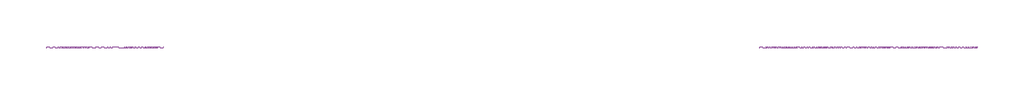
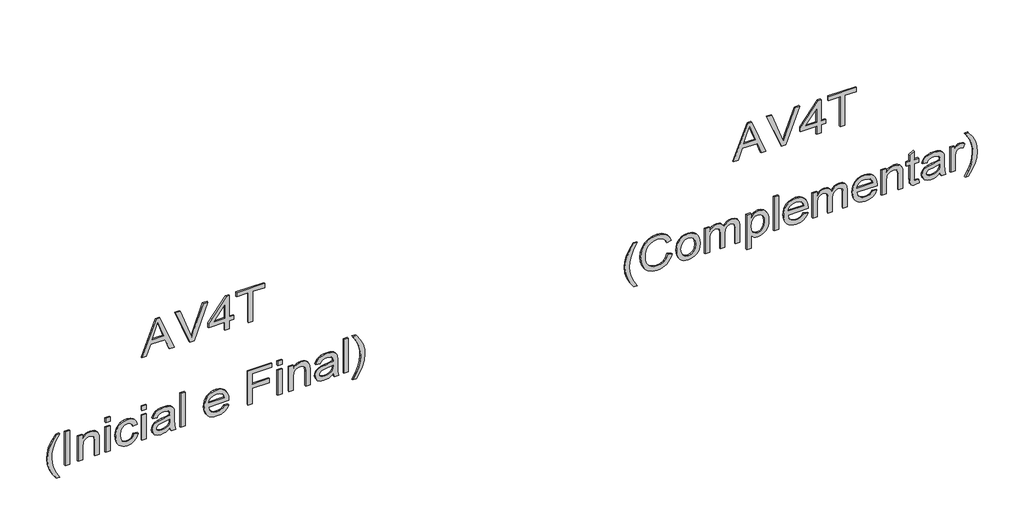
# One storey, part 11 of 14: 2 proxies.
"""IFC4 building model written with IfcOpenShell, lengths in millimetres."""

from ifc_helpers import new_model, si_unit, frame, origin, place, context, project, spatial, polyline, outline, extrude, element, save

model = new_model("IFC4")

# Units and contexts
model_context = context("Model", 3, world=origin())
ifc_project = project(units=[si_unit("LENGTHUNIT", "METRE", prefix="MILLI")], contexts=[model_context])

# Site, building, storey
site = spatial("IfcSite", under=ifc_project)
building = spatial("IfcBuilding", under=site)
storey = spatial("IfcBuildingStorey", under=building, Name="04 - Marelli - Planta Baixa - Painéis de Vidro", Elevation=36000.0)

# Proxies
placement = place(None, origin())
element("IfcBuildingElementProxy", 1, Name="300mm Arial", ObjectType="300mm Arial", at=placement, inside=storey, context=model_context, shape_type="SweptSolid", body=[
    extrude(outline(polyline([(42065.9244535, 93333.7166072), (42065.9244535, 93373.5214391), (42160.1022443, 93407.9551938), (42160.1022443, 93532.078579), (42065.9244535, 93566.5859102), (42065.9244535, 93606.390742), (42367.293384, 93486.0933296), (42367.293384, 93454.0140196), (42065.9244535, 93333.7166072)]), holes=[polyline([(42197.7733606, 93421.7875569), (42278.3395176, 93451.2916929), (42329.6222677, 93470.0536746), (42271.8647944, 93491.1701012), (42197.7733606, 93518.3197924), (42197.7733606, 93421.7875569)])]), frame((0.0, 8778.3159498, 0.0), z_axis=(0.0, 1.0, 0.0), x_axis=(0.0, 0.0, 1.0)), (0.0, 0.0, 1.0), 10.0),
    extrude(outline(polyline([(42065.9244535, 93735.6644751), (42065.9244535, 93774.5863902), (42367.293384, 93889.4391491), (42367.293384, 93849.1192825), (42150.1694304, 93768.6267019), (42101.2411251, 93752.5870469), (42150.1694304, 93736.3266627), (42367.293384, 93656.0548114), (42367.293384, 93615.7349447), (42065.9244535, 93735.6644751)])), frame((0.0, 8778.3159498, 0.0), z_axis=(0.0, 1.0, 0.0), x_axis=(0.0, 0.0, 1.0)), (0.0, 0.0, 1.0), 10.0),
    extrude(outline(polyline([(42065.9244535, 94032.7659745), (42065.9244535, 94070.4370908), (42136.5577966, 94070.4370908), (42136.5577966, 94108.1082071), (42174.2289129, 94108.1082071), (42174.2289129, 94070.4370908), (42362.5844944, 94070.4370908), (42362.5844944, 94042.1837535), (42174.2289129, 93896.2081778), (42136.5577966, 93896.2081778), (42136.5577966, 94032.7659745), (42065.9244535, 94032.7659745)]), holes=[polyline([(42174.2289129, 94032.7659745), (42174.2289129, 93942.5613092), (42290.6267762, 94032.7659745), (42174.2289129, 94032.7659745)])]), frame((0.0, 8778.3159498, 0.0), z_axis=(0.0, 1.0, 0.0), x_axis=(0.0, 0.0, 1.0)), (0.0, 0.0, 1.0), 10.0),
    extrude(outline(polyline([(42065.9244535, 94230.5393351), (42065.9244535, 94268.2104514), (42329.6222677, 94268.2104514), (42329.6222677, 94367.0971317), (42367.293384, 94367.0971317), (42367.293384, 94131.6526548), (42329.6222677, 94131.6526548), (42329.6222677, 94230.5393351), (42065.9244535, 94230.5393351)])), frame((0.0, 8778.3159498, 0.0), z_axis=(0.0, 1.0, 0.0), x_axis=(0.0, 0.0, 1.0)), (0.0, 0.0, 1.0), 10.0),
    extrude(outline(polyline([(41249.3155348, 92615.3902234), (41249.3155348, 92643.6435607), (41297.5540614, 92614.8016122), (41345.8109821, 92594.2002205), (41394.0862969, 92581.8393855), (41442.3800058, 92577.7191071), (41480.2534572, 92580.091946), (41517.9429677, 92587.2104626), (41575.7740173, 92608.4004655), (41635.4444769, 92643.6435607), (41635.4444769, 92615.3902234), (41584.934279, 92580.6989513), (41534.2033518, 92556.3819514), (41489.4137189, 92544.131481), (41442.600735, 92540.0479908), (41389.2210575, 92545.5110385), (41337.68079, 92561.9001813), (41290.2791949, 92586.1987871), (41249.3155348, 92615.3902234)])), frame((0.0, 8778.3159498, 0.0), z_axis=(0.0, 1.0, 0.0), x_axis=(0.0, 0.0, 1.0)), (0.0, 0.0, 1.0), 10.0),
    extrude(outline(polyline([(92728.4035724, 8778.3159498), (92690.732456, 8778.3159498), (92690.732456, 8788.3159498), (92728.4035724, 8788.3159498), (92728.4035724, 8778.3159498)])), frame((0.0, 0.0, 41334.0755465), z_axis=(0.0, 0.0, 1.0), x_axis=(1.0, 0.0, 0.0)), (0.0, 0.0, 1.0), 301.3689304),
    extrude(outline(polyline([(41334.0755465, 92799.0369154), (41334.0755465, 92836.7080317), (41451.5034793, 92836.7080317), (41486.2131456, 92841.003054), (41498.5877762, 92846.3718319), (41507.6422718, 92853.8881209), (41518.7339139, 92872.6960879), (41522.431128, 92894.7598106), (41520.7848561, 92908.6565529), (41515.8460403, 92920.6219148), (41508.1481095, 92929.9569205), (41498.2244927, 92935.962594), (41464.8943839, 92940.3036016), (41334.0755465, 92940.3036016), (41334.0755465, 92977.9747179), (41469.9711555, 92977.9747179), (41506.391473, 92975.9881551), (41534.0929872, 92964.6941779), (41544.6328064, 92954.5958171), (41552.9285454, 92940.4139662), (41558.3088196, 92923.4086209), (41560.1022443, 92904.8397772), (41557.8765582, 92883.8613065), (41551.1995, 92865.513192), (41540.0710697, 92849.7954337), (41524.4912672, 92836.7080317), (41555.3933548, 92836.7080317), (41555.3933548, 92799.0369154), (41334.0755465, 92799.0369154)])), frame((0.0, 8778.3159498, 0.0), z_axis=(0.0, 1.0, 0.0), x_axis=(0.0, 0.0, 1.0)), (0.0, 0.0, 1.0), 10.0),
    extrude(outline(polyline([(93067.4436191, 8778.3159498), (93029.7725028, 8778.3159498), (93029.7725028, 8788.3159498), (93067.4436191, 8788.3159498), (93067.4436191, 8778.3159498)])), frame((0.0, 0.0, 41597.7733606), z_axis=(0.0, 0.0, 1.0), x_axis=(1.0, 0.0, 0.0)), (0.0, 0.0, 1.0), 37.6711163),
    extrude(outline(polyline([(93067.4436191, 8778.3159498), (93029.7725028, 8778.3159498), (93029.7725028, 8788.3159498), (93067.4436191, 8788.3159498), (93067.4436191, 8778.3159498)])), frame((0.0, 0.0, 41334.0755465), z_axis=(0.0, 0.0, 1.0), x_axis=(1.0, 0.0, 0.0)), (0.0, 0.0, 1.0), 221.3178083),
    extrude(outline(polyline([(41414.1266686, 93265.2169797), (41393.2493654, 93258.7882419), (41378.5892679, 93247.1539738), (41369.9256469, 93231.160304), (41367.0377732, 93211.6533612), (41371.6638893, 93187.6214699), (41385.5422376, 93168.647956), (41409.6477053, 93156.3147121), (41444.9551798, 93152.2036308), (41479.7936048, 93156.4066826), (41503.816299, 93169.015838), (41517.7774208, 93188.3388398), (41522.431128, 93212.6834308), (41520.0674862, 93229.1737412), (41512.9765607, 93243.0336954), (41501.1951398, 93253.6746821), (41484.7600117, 93260.5080902), (41489.4689012, 93298.1792065), (41519.4512838, 93287.9244959), (41541.7081445, 93269.6683519), (41555.5037194, 93244.2201148), (41560.1022443, 93212.3891252), (41556.7545181, 93185.7452717), (41546.7113397, 93161.1431633), (41529.9635118, 93140.5785598), (41506.5018376, 93126.0472209), (41477.448357, 93117.4111911), (41443.9251102, 93114.5325145), (41417.8675687, 93116.2178739), (41395.024396, 93121.2739521), (41375.3955923, 93129.700749), (41358.9811575, 93141.4982647), (41346.0248135, 93156.0732895), (41336.7702821, 93172.8326137), (41331.2175632, 93191.7762372), (41329.3666569, 93212.90416), (41334.6733547, 93245.535293), (41350.593448, 93272.648196), (41375.9129264, 93292.3850651), (41409.4177791, 93302.888096), (41414.1266686, 93265.2169797)])), frame((0.0, 8778.3159498, 0.0), z_axis=(0.0, 1.0, 0.0), x_axis=(0.0, 0.0, 1.0)), (0.0, 0.0, 1.0), 10.0),
    extrude(outline(polyline([(93373.5214391, 8778.3159498), (93335.8503228, 8778.3159498), (93335.8503228, 8788.3159498), (93373.5214391, 8788.3159498), (93373.5214391, 8778.3159498)])), frame((0.0, 0.0, 41597.7733606), z_axis=(0.0, 0.0, 1.0), x_axis=(1.0, 0.0, 0.0)), (0.0, 0.0, 1.0), 37.6711163),
    extrude(outline(polyline([(93373.5214391, 8778.3159498), (93335.8503228, 8778.3159498), (93335.8503228, 8788.3159498), (93373.5214391, 8788.3159498), (93373.5214391, 8778.3159498)])), frame((0.0, 0.0, 41334.0755465), z_axis=(0.0, 0.0, 1.0), x_axis=(1.0, 0.0, 0.0)), (0.0, 0.0, 1.0), 221.3178083),
    extrude(outline(polyline([(41362.3288837, 93571.2947997), (41334.0755465, 93580.7125788), (41334.0755465, 93618.3836951), (41365.7501862, 93610.8789024), (41431.1963932, 93608.965916), (41478.0645594, 93608.965916), (41511.0267861, 93607.126506), (41525.1442577, 93602.5831634), (41536.5945848, 93595.5750114), (41545.856014, 93585.0076011), (41553.406792, 93569.7864835), (41558.4283812, 93549.598959), (41560.1022443, 93524.1323279), (41558.207652, 93497.5804449), (41552.5238752, 93474.4314704), (41543.3452194, 93455.5039417), (41530.9659903, 93441.6163964), (41514.7791825, 93431.8583265), (41494.1777908, 93425.319224), (41489.4689012, 93462.9903403), (41505.1314772, 93470.4767389), (41515.1838527, 93481.1637109), (41520.6193092, 93496.8354839), (41522.431128, 93519.2762856), (41519.7088012, 93543.5197091), (41511.5418209, 93560.9205274), (41500.5421493, 93568.7012316), (41483.7299421, 93571.2947997), (41475.3422326, 93571.0740705), (41468.3524747, 93544.2554731), (41462.3927864, 93505.7382282), (41456.7274037, 93473.1438834), (41444.3665686, 93446.7667443), (41434.8752131, 93436.1625458), (41422.7351073, 93427.8208216), (41408.5532564, 93422.4129563), (41392.9366657, 93420.6103345), (41367.6079903, 93425.3836034), (41347.2457219, 93439.70341), (41333.8364232, 93462.925961), (41329.3666569, 93494.4074627), (41331.224461, 93515.2755689), (41336.7978732, 93534.7641176), (41346.896234, 93553.2961731), (41362.3288837, 93571.2947997)]), holes=[polyline([(41437.6711163, 93571.2947997), (41427.0025384, 93571.0740705), (41410.0799667, 93569.5841484), (41397.8662844, 93565.1143822), (41386.0112871, 93555.0344155), (41376.0508821, 93540.5398649), (41369.2910505, 93522.6607999), (41367.0377732, 93502.4272902), (41369.0795183, 93483.3434117), (41375.2047535, 93469.5018516), (41384.3834093, 93461.086551), (41395.5854161, 93458.2814508), (41410.0799667, 93463.4317987), (41420.0127805, 93478.1102903), (41426.1196217, 93510.5206941), (41437.6711163, 93571.2947997)])]), frame((0.0, 8778.3159498, 0.0), z_axis=(0.0, 1.0, 0.0), x_axis=(0.0, 0.0, 1.0)), (0.0, 0.0, 1.0), 10.0),
    extrude(outline(polyline([(93698.4348172, 8778.3159498), (93660.7637009, 8778.3159498), (93660.7637009, 8788.3159498), (93698.4348172, 8788.3159498), (93698.4348172, 8778.3159498)])), frame((0.0, 0.0, 41334.0755465), z_axis=(0.0, 0.0, 1.0), x_axis=(1.0, 0.0, 0.0)), (0.0, 0.0, 1.0), 301.3689304),
    extrude(outline(polyline([(41400.0, 94027.6156265), (41385.1191733, 94017.0574133), (41374.9104479, 94003.3354148), (41369.0059419, 93986.4496313), (41367.0377732, 93966.4000625), (41371.2868103, 93939.7378149), (41384.0339214, 93917.8764274), (41404.7640718, 93902.7288862), (41432.9622268, 93896.2081778), (41432.9622268, 94065.507472), (41443.1157698, 94065.7282012), (41469.3687487, 94063.9416743), (41492.5039277, 94058.5820935), (41512.5213067, 94049.6494588), (41529.4208859, 94037.1437702), (41542.8439802, 94021.8237844), (41552.4319047, 94004.4482579), (41558.1846594, 93985.0171907), (41560.1022443, 93963.530583), (41558.1800609, 93941.3289046), (41552.4135106, 93921.2977299), (41542.8025935, 93903.437059), (41529.3473095, 93887.746892), (41512.4109422, 93874.9675911), (41492.3567749, 93865.8395191), (41469.1848077, 93860.3626759), (41442.8950406, 93858.5370615), (41417.467497, 93860.3442818), (41395.0427901, 93865.7659427), (41375.62092, 93874.8020442), (41359.2018867, 93887.4525864), (41346.1489737, 93903.1841402), (41336.8254644, 93921.4632768), (41331.2313588, 93942.2899963), (41329.3666569, 93965.6642985), (41333.6892704, 94001.3212609), (41346.6571107, 94030.0068595), (41367.4608375, 94051.2428477), (41395.2911105, 94064.5509788), (41400.0, 94027.6156265)]), holes=[polyline([(41470.6333431, 93896.2081778), (41491.8693312, 93902.3977924), (41508.3412476, 93916.9935106), (41518.9086579, 93937.9903754), (41522.431128, 93963.3834302), (41518.0165441, 93991.011368), (41504.7727922, 94012.9739231), (41490.535759, 94022.9619193), (41470.6333431, 94028.0570849), (41470.6333431, 93896.2081778)])]), frame((0.0, 8778.3159498, 0.0), z_axis=(0.0, 1.0, 0.0), x_axis=(0.0, 0.0, 1.0)), (0.0, 0.0, 1.0), 10.0),
    extrude(outline(polyline([(41334.0755465, 94225.8304455), (41334.0755465, 94263.5015618), (41470.6333431, 94263.5015618), (41470.6333431, 94404.768248), (41508.3044594, 94404.768248), (41508.3044594, 94263.5015618), (41597.7733606, 94263.5015618), (41597.7733606, 94428.3126957), (41635.4444769, 94428.3126957), (41635.4444769, 94225.8304455), (41334.0755465, 94225.8304455)])), frame((0.0, 8778.3159498, 0.0), z_axis=(0.0, 1.0, 0.0), x_axis=(0.0, 0.0, 1.0)), (0.0, 0.0, 1.0), 10.0),
    extrude(outline(polyline([(94513.0727074, 8778.3159498), (94475.4015911, 8778.3159498), (94475.4015911, 8788.3159498), (94513.0727074, 8788.3159498), (94513.0727074, 8778.3159498)])), frame((0.0, 0.0, 41597.7733606), z_axis=(0.0, 0.0, 1.0), x_axis=(1.0, 0.0, 0.0)), (0.0, 0.0, 1.0), 37.6711163),
    extrude(outline(polyline([(94513.0727074, 8778.3159498), (94475.4015911, 8778.3159498), (94475.4015911, 8788.3159498), (94513.0727074, 8788.3159498), (94513.0727074, 8778.3159498)])), frame((0.0, 0.0, 41334.0755465), z_axis=(0.0, 0.0, 1.0), x_axis=(1.0, 0.0, 0.0)), (0.0, 0.0, 1.0), 221.3178083),
    extrude(outline(polyline([(41334.0755465, 94569.5793818), (41334.0755465, 94607.2504981), (41451.5034793, 94607.2504981), (41486.2131456, 94611.5455204), (41498.5877762, 94616.9142983), (41507.6422718, 94624.4305873), (41518.7339139, 94643.2385543), (41522.431128, 94665.302277), (41520.7848561, 94679.1990193), (41515.8460403, 94691.1643812), (41508.1481095, 94700.4993868), (41498.2244927, 94706.5050604), (41464.8943839, 94710.846068), (41334.0755465, 94710.846068), (41334.0755465, 94748.5171843), (41469.9711555, 94748.5171843), (41506.391473, 94746.5306215), (41534.0929872, 94735.2366442), (41544.6328064, 94725.1382835), (41552.9285454, 94710.9564326), (41558.3088196, 94693.9510873), (41560.1022443, 94675.3822436), (41557.8765582, 94654.4037729), (41551.1995, 94636.0556583), (41540.0710697, 94620.3379001), (41524.4912672, 94607.2504981), (41555.3933548, 94607.2504981), (41555.3933548, 94569.5793818), (41334.0755465, 94569.5793818)])), frame((0.0, 8778.3159498, 0.0), z_axis=(0.0, 1.0, 0.0), x_axis=(0.0, 0.0, 1.0)), (0.0, 0.0, 1.0), 10.0),
    extrude(outline(polyline([(41362.3288837, 94941.5816553), (41334.0755465, 94950.9994344), (41334.0755465, 94988.6705507), (41365.7501862, 94981.165758), (41431.1963932, 94979.2527716), (41478.0645594, 94979.2527716), (41511.0267861, 94977.4133617), (41525.1442577, 94972.870019), (41536.5945848, 94965.861867), (41545.856014, 94955.2944567), (41553.406792, 94940.0733392), (41558.4283812, 94919.8858147), (41560.1022443, 94894.4191836), (41558.207652, 94867.8673006), (41552.5238752, 94844.718326), (41543.3452194, 94825.7907974), (41530.9659903, 94811.903252), (41514.7791825, 94802.1451821), (41494.1777908, 94795.6060797), (41489.4689012, 94833.277196), (41505.1314772, 94840.7635946), (41515.1838527, 94851.4505665), (41520.6193092, 94867.1223395), (41522.431128, 94889.5631412), (41519.7088012, 94913.8065647), (41511.5418209, 94931.2073831), (41500.5421493, 94938.9880873), (41483.7299421, 94941.5816553), (41475.3422326, 94941.3609261), (41468.3524747, 94914.5423287), (41462.3927864, 94876.0250838), (41456.7274037, 94843.430739), (41444.3665686, 94817.0536), (41434.8752131, 94806.4494015), (41422.7351073, 94798.1076772), (41408.5532564, 94792.6998119), (41392.9366657, 94790.8971901), (41367.6079903, 94795.670459), (41347.2457219, 94809.9902657), (41333.8364232, 94833.2128166), (41329.3666569, 94864.6943183), (41331.224461, 94885.5624245), (41336.7978732, 94905.0509732), (41346.896234, 94923.5830287), (41362.3288837, 94941.5816553)]), holes=[polyline([(41437.6711163, 94941.5816553), (41427.0025384, 94941.3609261), (41410.0799667, 94939.8710041), (41397.8662844, 94935.4012378), (41386.0112871, 94925.3212712), (41376.0508821, 94910.8267205), (41369.2910505, 94892.9476556), (41367.0377732, 94872.7141458), (41369.0795183, 94853.6302673), (41375.2047535, 94839.7887073), (41384.3834093, 94831.3734066), (41395.5854161, 94828.5683064), (41410.0799667, 94833.7186544), (41420.0127805, 94848.397146), (41426.1196217, 94880.8075497), (41437.6711163, 94941.5816553)])]), frame((0.0, 8778.3159498, 0.0), z_axis=(0.0, 1.0, 0.0), x_axis=(0.0, 0.0, 1.0)), (0.0, 0.0, 1.0), 10.0),
    extrude(outline(polyline([(95068.7216729, 8778.3159498), (95031.0505566, 8778.3159498), (95031.0505566, 8788.3159498), (95068.7216729, 8788.3159498), (95068.7216729, 8778.3159498)])), frame((0.0, 0.0, 41334.0755465), z_axis=(0.0, 0.0, 1.0), x_axis=(1.0, 0.0, 0.0)), (0.0, 0.0, 1.0), 301.3689304),
    extrude(outline(polyline([(41249.3155348, 95134.6461264), (41290.2791949, 95163.699607), (41337.68079, 95188.0258039), (41389.2210575, 95204.4977202), (41442.600735, 95209.988359), (41489.4137189, 95205.9048689), (41534.2033518, 95193.6543984), (41584.934279, 95169.3373986), (41635.4444769, 95134.6461264), (41635.4444769, 95106.3927892), (41575.1854061, 95141.8566135), (41546.8400984, 95153.8311725), (41517.2807801, 95162.8258872), (41479.9775458, 95169.9444038), (41442.3800058, 95172.3172427), (41394.0862969, 95168.1969644), (41345.8109821, 95155.8361293), (41297.5540614, 95135.2347376), (41249.3155348, 95106.3927892), (41249.3155348, 95134.6461264)])), frame((0.0, 8778.3159498, 0.0), z_axis=(0.0, 1.0, 0.0), x_axis=(0.0, 0.0, 1.0)), (0.0, 0.0, 1.0), 10.0),
])
element("IfcBuildingElementProxy", 2, Name="300mm Arial", ObjectType="300mm Arial", at=placement, inside=storey, context=model_context, shape_type="SweptSolid", body=[
    extrude(outline(polyline([(42065.9244535, 98305.46327), (42065.9244535, 98345.2681019), (42160.1022443, 98379.7018566), (42160.1022443, 98503.8252418), (42065.9244535, 98538.3325729), (42065.9244535, 98578.1374048), (42367.293384, 98457.8399924), (42367.293384, 98425.7606824), (42065.9244535, 98305.46327)]), holes=[polyline([(42197.7733606, 98393.5342196), (42278.3395176, 98423.0383556), (42329.6222677, 98441.8003374), (42271.8647944, 98462.9167639), (42197.7733606, 98490.0664552), (42197.7733606, 98393.5342196)])]), frame((0.0, 8778.3159498, 0.0), z_axis=(0.0, 1.0, 0.0), x_axis=(0.0, 0.0, 1.0)), (0.0, 0.0, 1.0), 10.0),
    extrude(outline(polyline([(42065.9244535, 98707.4111379), (42065.9244535, 98746.333053), (42367.293384, 98861.1858119), (42367.293384, 98820.8659452), (42150.1694304, 98740.3733647), (42101.2411251, 98724.3337097), (42150.1694304, 98708.0733255), (42367.293384, 98627.8014742), (42367.293384, 98587.4816075), (42065.9244535, 98707.4111379)])), frame((0.0, 8778.3159498, 0.0), z_axis=(0.0, 1.0, 0.0), x_axis=(0.0, 0.0, 1.0)), (0.0, 0.0, 1.0), 10.0),
    extrude(outline(polyline([(42065.9244535, 99004.5126372), (42065.9244535, 99042.1837535), (42136.5577966, 99042.1837535), (42136.5577966, 99079.8548698), (42174.2289129, 99079.8548698), (42174.2289129, 99042.1837535), (42362.5844944, 99042.1837535), (42362.5844944, 99013.9304163), (42174.2289129, 98867.9548406), (42136.5577966, 98867.9548406), (42136.5577966, 99004.5126372), (42065.9244535, 99004.5126372)]), holes=[polyline([(42174.2289129, 99004.5126372), (42174.2289129, 98914.307972), (42290.6267762, 99004.5126372), (42174.2289129, 99004.5126372)])]), frame((0.0, 8778.3159498, 0.0), z_axis=(0.0, 1.0, 0.0), x_axis=(0.0, 0.0, 1.0)), (0.0, 0.0, 1.0), 10.0),
    extrude(outline(polyline([(42065.9244535, 99202.2859978), (42065.9244535, 99239.9571141), (42329.6222677, 99239.9571141), (42329.6222677, 99338.8437944), (42367.293384, 99338.8437944), (42367.293384, 99103.3993175), (42329.6222677, 99103.3993175), (42329.6222677, 99202.2859978), (42065.9244535, 99202.2859978)])), frame((0.0, 8778.3159498, 0.0), z_axis=(0.0, 1.0, 0.0), x_axis=(0.0, 0.0, 1.0)), (0.0, 0.0, 1.0), 10.0),
    extrude(outline(polyline([(41249.3155348, 97469.4146478), (41249.3155348, 97497.667985), (41297.5540614, 97468.8260366), (41345.8109821, 97448.2246448), (41394.0862969, 97435.8638098), (41442.3800058, 97431.7435314), (41480.2534572, 97434.1163703), (41517.9429677, 97441.2348869), (41575.7740173, 97462.4248898), (41635.4444769, 97497.667985), (41635.4444769, 97469.4146478), (41584.934279, 97434.7233756), (41534.2033518, 97410.4063757), (41489.4137189, 97398.1559053), (41442.600735, 97394.0724151), (41389.2210575, 97399.5354628), (41337.68079, 97415.9246057), (41290.2791949, 97440.2232114), (41249.3155348, 97469.4146478)])), frame((0.0, 8778.3159498, 0.0), z_axis=(0.0, 1.0, 0.0), x_axis=(0.0, 0.0, 1.0)), (0.0, 0.0, 1.0), 10.0),
    extrude(outline(polyline([(41441.2027835, 97751.94802), (41408.9395325, 97739.761929), (41385.7261786, 97719.9790747), (41371.7098746, 97693.7766796), (41367.0377732, 97662.331966), (41370.4682728, 97635.3570187), (41380.7597717, 97610.3502401), (41397.9858461, 97589.491331), (41422.2200725, 97574.9599922), (41452.3128197, 97566.4343269), (41487.1144565, 97563.5924385), (41515.5333406, 97565.9928685), (41543.1060961, 97573.1941586), (41567.4966724, 97586.3183488), (41586.3690188, 97606.4874792), (41598.4539423, 97633.0669533), (41602.4822501, 97665.4221748), (41598.8494154, 97693.491571), (41587.9509113, 97716.3370429), (41569.1061561, 97734.1793197), (41541.6345681, 97747.2391305), (41550.6108888, 97784.9102468), (41588.4291579, 97768.2727836), (41603.751443, 97756.4706693), (41616.6824952, 97742.3463), (41626.9510013, 97726.16639), (41634.2856486, 97708.1976538), (41640.1533665, 97666.8937028), (41635.6192209, 97629.0386455), (41622.0167841, 97594.4945261), (41599.6771499, 97565.3674691), (41568.9314122, 97543.763599), (41530.9843844, 97530.3818914), (41487.0408801, 97525.9213222), (41445.3782441, 97529.8668566), (41406.4747231, 97541.7034598), (41373.3837376, 97561.0908409), (41349.1587083, 97587.6887092), (41334.3146698, 97622.3891784), (41329.3666569, 97666.0843624), (41331.0014325, 97688.50677), (41335.9057594, 97709.1265558), (41344.0796375, 97727.9437199), (41355.5230668, 97744.9582621), (41370.0796975, 97759.8344903), (41387.5931797, 97772.2367121), (41408.0635135, 97782.1649274), (41431.4906988, 97789.6191364), (41441.2027835, 97751.94802)])), frame((0.0, 8778.3159498, 0.0), z_axis=(0.0, 1.0, 0.0), x_axis=(0.0, 0.0, 1.0)), (0.0, 0.0, 1.0), 10.0),
    extrude(outline(polyline([(41444.7344506, 97827.2902527), (41418.4124939, 97828.9986047), (41395.3646869, 97834.1236607), (41375.5910296, 97842.6654208), (41359.0915221, 97854.6238849), (41346.0868936, 97869.350661), (41336.7978732, 97886.1973571), (41331.224461, 97905.1639733), (41329.3666569, 97926.2505094), (41332.7419742, 97952.8391806), (41342.8679261, 97977.2757421), (41359.1007192, 97997.8495427), (41380.7965599, 98012.849931), (41409.767267, 98022.0101927), (41447.8246594, 98025.0636133), (41472.7049786, 98023.3368672), (41494.7388108, 98018.1566288), (41513.9261561, 98009.5228982), (41530.2670145, 97997.4356754), (41543.3199275, 97982.6261259), (41552.6434368, 97965.825415), (41558.2375424, 97947.0335428), (41560.1022443, 97926.2505094), (41558.5709355, 97907.4241483), (41553.9770091, 97890.0877092), (41546.3204651, 97874.2411923), (41535.6013034, 97859.8845974), (41518.830483, 97845.6245716), (41498.095734, 97835.4388389), (41473.3970566, 97829.3273992), (41444.7344506, 97827.2902527)]), holes=[polyline([(41444.808027, 97864.961369), (41478.8830968, 97869.3207706), (41503.1173232, 97882.3989755), (41517.6026768, 97902.0806623), (41522.431128, 97926.2505094), (41517.5842827, 97950.1720361), (41503.0437468, 97969.8445258), (41479.0854319, 97983.0055042), (41445.9852494, 97987.392497), (41411.1468245, 97983.0330953), (41386.535519, 97969.9548904), (41371.9122097, 97950.3099918), (41367.0377732, 97926.2505094), (41371.8846185, 97902.0806623), (41386.4251544, 97882.3989755), (41410.7145631, 97869.3207706), (41444.808027, 97864.961369)])]), frame((0.0, 8778.3159498, 0.0), z_axis=(0.0, 1.0, 0.0), x_axis=(0.0, 0.0, 1.0)), (0.0, 0.0, 1.0), 10.0),
    extrude(outline(polyline([(41334.0755465, 98067.4436191), (41334.0755465, 98105.1147354), (41445.6909438, 98105.1147354), (41471.6082304, 98106.5494752), (41490.6461236, 98110.8536945), (41504.368122, 98118.3584872), (41514.3377241, 98129.3949471), (41520.407777, 98142.7674576), (41522.431128, 98157.2804023), (41519.3961015, 98174.359324), (41510.2910222, 98185.8648334), (41495.0974958, 98192.4039358), (41473.7971282, 98194.5836366), (41334.0755465, 98194.5836366), (41334.0755465, 98232.2547529), (41459.008272, 98232.2547529), (41487.7214617, 98235.94277), (41507.3479662, 98247.006821), (41518.6603375, 98263.6442842), (41522.431128, 98284.0525379), (41520.9596, 98295.6132296), (41516.5450161, 98305.5736346), (41509.7300021, 98313.3175506), (41501.0571841, 98318.2287752), (41469.6032735, 98321.7236542), (41334.0755465, 98321.7236542), (41334.0755465, 98359.3947705), (41485.7900813, 98359.3947705), (41518.7615051, 98355.0813541), (41541.8920855, 98342.1411049), (41555.5497046, 98321.1994223), (41560.1022443, 98292.8817058), (41557.366122, 98273.3563689), (41549.1577549, 98255.7624124), (41535.4771432, 98240.0998365), (41516.3242869, 98226.368641), (41534.7643719, 98218.1648725), (41548.5875379, 98205.6200965), (41557.2235677, 98188.8262834), (41560.1022443, 98167.8754038), (41557.27875, 98148.3224757), (41548.808267, 98131.0136279), (41535.702471, 98116.4455009), (41518.9730372, 98105.1147354), (41555.3933548, 98105.1147354), (41555.3933548, 98067.4436191), (41334.0755465, 98067.4436191)])), frame((0.0, 8778.3159498, 0.0), z_axis=(0.0, 1.0, 0.0), x_axis=(0.0, 0.0, 1.0)), (0.0, 0.0, 1.0), 10.0),
    extrude(outline(polyline([(41249.3155348, 98415.9014449), (41249.3155348, 98453.5725612), (41363.5061061, 98453.5725612), (41349.9956398, 98464.213548), (41339.0419534, 98477.4481027), (41331.785481, 98492.9083436), (41329.3666569, 98510.2263885), (41332.9810975, 98534.6445559), (41343.8244193, 98557.8671069), (41361.4459669, 98577.806311), (41385.3950848, 98592.374438), (41414.2094421, 98601.2863794), (41446.4267078, 98604.2570265), (41476.7217901, 98601.6266702), (41504.4784866, 98593.7356014), (41527.9861461, 98580.6757906), (41545.5341173, 98562.5392082), (41556.4602125, 98540.2639534), (41560.1022443, 98514.7881252), (41557.4994792, 98495.6582615), (41549.6911838, 98479.6186065), (41536.6773583, 98465.8598199), (41518.4580024, 98453.5725612), (41555.3933548, 98453.5725612), (41555.3933548, 98415.9014449), (41249.3155348, 98415.9014449)]), holes=[polyline([(41442.968617, 98453.5725612), (41477.1356573, 98457.9227658), (41502.0872537, 98470.9733796), (41517.3451594, 98489.670982), (41522.431128, 98510.9621525), (41517.6486621, 98532.1705495), (41503.3012642, 98550.1783732), (41479.3521464, 98562.4840259), (41445.7645202, 98566.5859102), (41410.7237602, 98562.3828584), (41386.2412134, 98549.773703), (41371.8386333, 98531.2784357), (41367.0377732, 98509.4170481), (41371.6730864, 98487.9051484), (41385.5790258, 98469.8697336), (41409.1970499, 98457.6468543), (41442.968617, 98453.5725612)])]), frame((0.0, 8778.3159498, 0.0), z_axis=(0.0, 1.0, 0.0), x_axis=(0.0, 0.0, 1.0)), (0.0, 0.0, 1.0), 10.0),
    extrude(outline(polyline([(98684.3081486, 8778.3159498), (98646.6370323, 8778.3159498), (98646.6370323, 8788.3159498), (98684.3081486, 8788.3159498), (98684.3081486, 8778.3159498)])), frame((0.0, 0.0, 41334.0755465), z_axis=(0.0, 0.0, 1.0), x_axis=(1.0, 0.0, 0.0)), (0.0, 0.0, 1.0), 301.3689304),
    extrude(outline(polyline([(41400.0, 98895.7667195), (41385.1191733, 98885.2085062), (41374.9104479, 98871.4865078), (41369.0059419, 98854.6007242), (41367.0377732, 98834.5511555), (41371.2868103, 98807.8889079), (41384.0339214, 98786.0275203), (41404.7640718, 98770.8799791), (41432.9622268, 98764.3592708), (41432.9622268, 98933.658565), (41443.1157698, 98933.8792942), (41469.3687487, 98932.0927672), (41492.5039277, 98926.7331864), (41512.5213067, 98917.8005517), (41529.4208859, 98905.2948631), (41542.8439802, 98889.9748773), (41552.4319047, 98872.5993508), (41558.1846594, 98853.1682837), (41560.1022443, 98831.6816759), (41558.1800609, 98809.4799975), (41552.4135106, 98789.4488228), (41542.8025935, 98771.588152), (41529.3473095, 98755.8979849), (41512.4109422, 98743.1186841), (41492.3567749, 98733.9906121), (41469.1848077, 98728.5137689), (41442.8950406, 98726.6881545), (41417.467497, 98728.4953748), (41395.0427901, 98733.9170357), (41375.62092, 98742.9531372), (41359.2018867, 98755.6036793), (41346.1489737, 98771.3352331), (41336.8254644, 98789.6143697), (41331.2313588, 98810.4410892), (41329.3666569, 98833.8153915), (41333.6892704, 98869.4723538), (41346.6571107, 98898.1579524), (41367.4608375, 98919.3939406), (41395.2911105, 98932.7020718), (41400.0, 98895.7667195)]), holes=[polyline([(41470.6333431, 98764.3592708), (41491.8693312, 98770.5488853), (41508.3412476, 98785.1446035), (41518.9086579, 98806.1414684), (41522.431128, 98831.5345231), (41518.0165441, 98859.1624609), (41504.7727922, 98881.125016), (41490.535759, 98891.1130122), (41470.6333431, 98896.2081778), (41470.6333431, 98764.3592708)])]), frame((0.0, 8778.3159498, 0.0), z_axis=(0.0, 1.0, 0.0), x_axis=(0.0, 0.0, 1.0)), (0.0, 0.0, 1.0), 10.0),
    extrude(outline(polyline([(41334.0755465, 98971.5504105), (41334.0755465, 99009.2215268), (41445.6909438, 99009.2215268), (41471.6082304, 99010.6562665), (41490.6461236, 99014.9604859), (41504.368122, 99022.4652786), (41514.3377241, 99033.5017384), (41520.407777, 99046.874249), (41522.431128, 99061.3871937), (41519.3961015, 99078.4661153), (41510.2910222, 99089.9716247), (41495.0974958, 99096.5107272), (41473.7971282, 99098.690428), (41334.0755465, 99098.690428), (41334.0755465, 99136.3615443), (41459.008272, 99136.3615443), (41487.7214617, 99140.0495613), (41507.3479662, 99151.1136123), (41518.6603375, 99167.7510755), (41522.431128, 99188.1593292), (41520.9596, 99199.7200209), (41516.5450161, 99209.6804259), (41509.7300021, 99217.4243419), (41501.0571841, 99222.3355666), (41469.6032735, 99225.8304455), (41334.0755465, 99225.8304455), (41334.0755465, 99263.5015618), (41485.7900813, 99263.5015618), (41518.7615051, 99259.1881454), (41541.8920855, 99246.2478963), (41555.5497046, 99225.3062137), (41560.1022443, 99196.9884971), (41557.366122, 99177.4631602), (41549.1577549, 99159.8692038), (41535.4771432, 99144.2066278), (41516.3242869, 99130.4754324), (41534.7643719, 99122.2716639), (41548.5875379, 99109.7268878), (41557.2235677, 99092.9330748), (41560.1022443, 99071.9821951), (41557.27875, 99052.4292671), (41548.808267, 99035.1204192), (41535.702471, 99020.5522922), (41518.9730372, 99009.2215268), (41555.3933548, 99009.2215268), (41555.3933548, 98971.5504105), (41334.0755465, 98971.5504105)])), frame((0.0, 8778.3159498, 0.0), z_axis=(0.0, 1.0, 0.0), x_axis=(0.0, 0.0, 1.0)), (0.0, 0.0, 1.0), 10.0),
    extrude(outline(polyline([(41400.0, 99474.9601327), (41385.1191733, 99464.4019194), (41374.9104479, 99450.679921), (41369.0059419, 99433.7941374), (41367.0377732, 99413.7445687), (41371.2868103, 99387.0823211), (41384.0339214, 99365.2209335), (41404.7640718, 99350.0733923), (41432.9622268, 99343.552684), (41432.9622268, 99512.8519782), (41443.1157698, 99513.0727074), (41469.3687487, 99511.2861804), (41492.5039277, 99505.9265996), (41512.5213067, 99496.9939649), (41529.4208859, 99484.4882763), (41542.8439802, 99469.1682905), (41552.4319047, 99451.792764), (41558.1846594, 99432.3616969), (41560.1022443, 99410.8750891), (41558.1800609, 99388.6734107), (41552.4135106, 99368.6422361), (41542.8025935, 99350.7815652), (41529.3473095, 99335.0913981), (41512.4109422, 99322.3120973), (41492.3567749, 99313.1840253), (41469.1848077, 99307.7071821), (41442.8950406, 99305.8815677), (41417.467497, 99307.688788), (41395.0427901, 99313.1104489), (41375.62092, 99322.1465504), (41359.2018867, 99334.7970925), (41346.1489737, 99350.5286463), (41336.8254644, 99368.8077829), (41331.2313588, 99389.6345024), (41329.3666569, 99413.0088047), (41333.6892704, 99448.6657671), (41346.6571107, 99477.3513656), (41367.4608375, 99498.5873538), (41395.2911105, 99511.895485), (41400.0, 99474.9601327)]), holes=[polyline([(41470.6333431, 99343.552684), (41491.8693312, 99349.7422985), (41508.3412476, 99364.3380167), (41518.9086579, 99385.3348816), (41522.431128, 99410.7279363), (41518.0165441, 99438.3558741), (41504.7727922, 99460.3184292), (41490.535759, 99470.3064254), (41470.6333431, 99475.4015911), (41470.6333431, 99343.552684)])]), frame((0.0, 8778.3159498, 0.0), z_axis=(0.0, 1.0, 0.0), x_axis=(0.0, 0.0, 1.0)), (0.0, 0.0, 1.0), 10.0),
    extrude(outline(polyline([(41334.0755465, 99550.7438237), (41334.0755465, 99588.41494), (41451.5034793, 99588.41494), (41486.2131456, 99592.7099623), (41498.5877762, 99598.0787401), (41507.6422718, 99605.5950291), (41518.7339139, 99624.4029961), (41522.431128, 99646.4667188), (41520.7848561, 99660.3634612), (41515.8460403, 99672.3288231), (41508.1481095, 99681.6638287), (41498.2244927, 99687.6695023), (41464.8943839, 99692.0105098), (41334.0755465, 99692.0105098), (41334.0755465, 99729.6816261), (41469.9711555, 99729.6816261), (41506.391473, 99727.6950633), (41534.0929872, 99716.4010861), (41544.6328064, 99706.3027253), (41552.9285454, 99692.1208744), (41558.3088196, 99675.1155292), (41560.1022443, 99656.5466855), (41557.8765582, 99635.5682147), (41551.1995, 99617.2201002), (41540.0710697, 99601.5023419), (41524.4912672, 99588.41494), (41555.3933548, 99588.41494), (41555.3933548, 99550.7438237), (41334.0755465, 99550.7438237)])), frame((0.0, 8778.3159498, 0.0), z_axis=(0.0, 1.0, 0.0), x_axis=(0.0, 0.0, 1.0)), (0.0, 0.0, 1.0), 10.0),
    extrude(outline(polyline([(41365.4926689, 99861.5305332), (41367.0377732, 99845.1229962), (41369.576159, 99832.2839146), (41376.4555523, 99825.8459797), (41395.8797217, 99823.8594169), (41517.7222385, 99823.8594169), (41517.7222385, 99861.5305332), (41555.3933548, 99861.5305332), (41555.3933548, 99823.8594169), (41631.3241986, 99823.8594169), (41609.1777025, 99786.1883006), (41555.3933548, 99786.1883006), (41555.3933548, 99757.9349633), (41517.7222385, 99757.9349633), (41517.7222385, 99786.1883006), (41394.7760757, 99786.1883006), (41367.7919313, 99787.3287348), (41352.0281878, 99790.7500373), (41342.849532, 99796.967243), (41335.6206508, 99806.4953867), (41330.9301554, 99819.9782618), (41329.3666569, 99838.0596619), (41332.9719005, 99866.2394227), (41365.4926689, 99861.5305332)])), frame((0.0, 8778.3159498, 0.0), z_axis=(0.0, 1.0, 0.0), x_axis=(0.0, 0.0, 1.0)), (0.0, 0.0, 1.0), 10.0),
    extrude(outline(polyline([(41362.3288837, 100040.4683356), (41334.0755465, 100049.8861147), (41334.0755465, 100087.557231), (41365.7501862, 100080.0524383), (41431.1963932, 100078.1394519), (41478.0645594, 100078.1394519), (41511.0267861, 100076.300042), (41525.1442577, 100071.7566993), (41536.5945848, 100064.7485473), (41545.856014, 100054.181137), (41553.406792, 100038.9600195), (41558.4283812, 100018.772495), (41560.1022443, 99993.3058639), (41558.207652, 99966.7539809), (41552.5238752, 99943.6050063), (41543.3452194, 99924.6774777), (41530.9659903, 99910.7899323), (41514.7791825, 99901.0318624), (41494.1777908, 99894.49276), (41489.4689012, 99932.1638763), (41505.1314772, 99939.6502749), (41515.1838527, 99950.3372468), (41520.6193092, 99966.0090198), (41522.431128, 99988.4498215), (41519.7088012, 100012.693245), (41511.5418209, 100030.0940634), (41500.5421493, 100037.8747676), (41483.7299421, 100040.4683356), (41475.3422326, 100040.2476064), (41468.3524747, 100013.429009), (41462.3927864, 99974.9117641), (41456.7274037, 99942.3174193), (41444.3665686, 99915.9402803), (41434.8752131, 99905.3360818), (41422.7351073, 99896.9943575), (41408.5532564, 99891.5864922), (41392.9366657, 99889.7838704), (41367.6079903, 99894.5571393), (41347.2457219, 99908.876946), (41333.8364232, 99932.0994969), (41329.3666569, 99963.5809987), (41331.224461, 99984.4491048), (41336.7978732, 100003.9376535), (41346.896234, 100022.469709), (41362.3288837, 100040.4683356)]), holes=[polyline([(41437.6711163, 100040.4683356), (41427.0025384, 100040.2476064), (41410.0799667, 100038.7576844), (41397.8662844, 100034.2879181), (41386.0112871, 100024.2079515), (41376.0508821, 100009.7134008), (41369.2910505, 99991.8343359), (41367.0377732, 99971.6008261), (41369.0795183, 99952.5169476), (41375.2047535, 99938.6753876), (41384.3834093, 99930.2600869), (41395.5854161, 99927.4549867), (41410.0799667, 99932.6053347), (41420.0127805, 99947.2838263), (41426.1196217, 99979.69423), (41437.6711163, 100040.4683356)])]), frame((0.0, 8778.3159498, 0.0), z_axis=(0.0, 1.0, 0.0), x_axis=(0.0, 0.0, 1.0)), (0.0, 0.0, 1.0), 10.0),
    extrude(outline(polyline([(41334.0755465, 100129.9372369), (41334.0755465, 100167.6083532), (41450.3998333, 100167.6083532), (41473.3556698, 100169.1350635), (41494.39852, 100173.7151943), (41506.1339556, 100179.1690449), (41514.9999117, 100187.2900399), (41520.5733239, 100197.3424154), (41522.431128, 100208.5904074), (41520.4997475, 100221.8341593), (41514.7056061, 100235.0779111), (41548.4771733, 100247.6594753), (41557.1959765, 100228.603188), (41560.1022443, 100209.8412062), (41558.2812284, 100197.5539476), (41552.8181808, 100186.2967585), (41541.6345681, 100175.0763577), (41522.6518572, 100162.8994636), (41555.3933548, 100162.8994636), (41555.3933548, 100129.9372369), (41334.0755465, 100129.9372369)])), frame((0.0, 8778.3159498, 0.0), z_axis=(0.0, 1.0, 0.0), x_axis=(0.0, 0.0, 1.0)), (0.0, 0.0, 1.0), 10.0),
    extrude(outline(polyline([(41249.3155348, 100280.6217021), (41290.2791949, 100309.6751827), (41337.68079, 100334.0013796), (41389.2210575, 100350.4732959), (41442.600735, 100355.9639347), (41489.4137189, 100351.8804446), (41534.2033518, 100339.6299741), (41584.934279, 100315.3129742), (41635.4444769, 100280.6217021), (41635.4444769, 100252.3683649), (41575.1854061, 100287.8321892), (41546.8400984, 100299.8067481), (41517.2807801, 100308.8014629), (41479.9775458, 100315.9199795), (41442.3800058, 100318.2928184), (41394.0862969, 100314.1725401), (41345.8109821, 100301.811705), (41297.5540614, 100281.2103133), (41249.3155348, 100252.3683649), (41249.3155348, 100280.6217021)])), frame((0.0, 8778.3159498, 0.0), z_axis=(0.0, 1.0, 0.0), x_axis=(0.0, 0.0, 1.0)), (0.0, 0.0, 1.0), 10.0),
])

save(model, "model.ifc")
